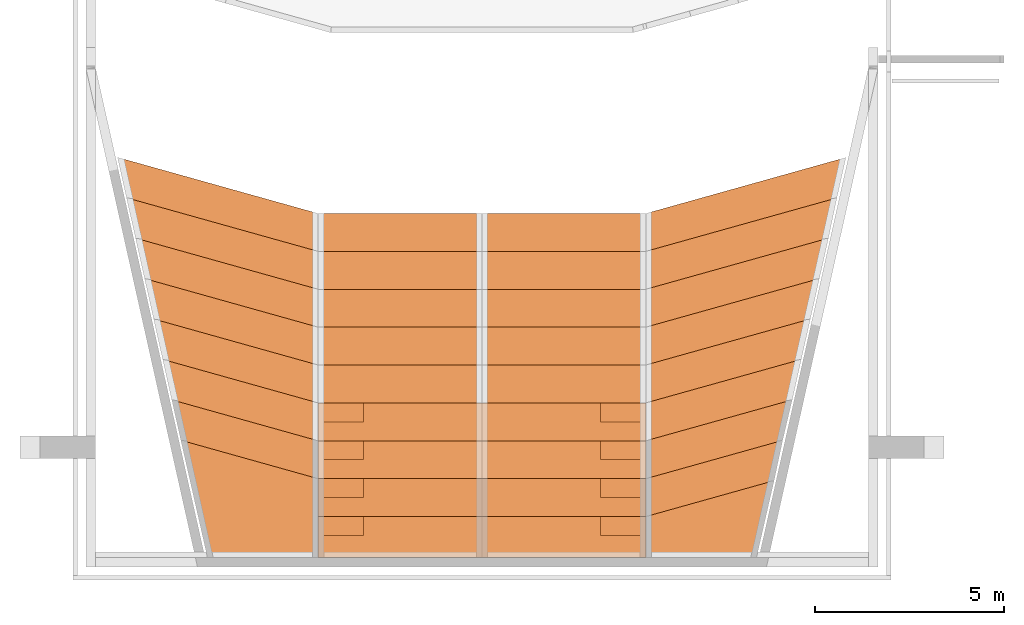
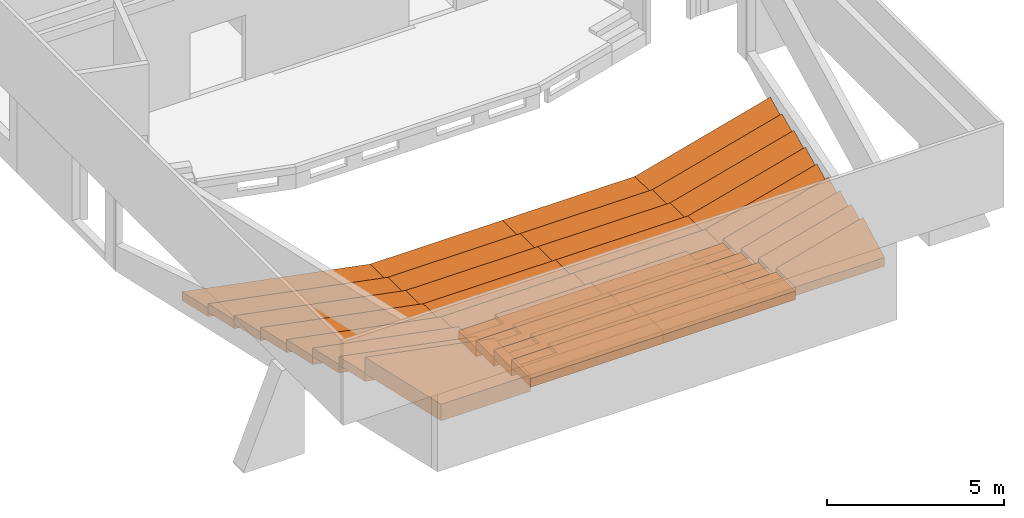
# One storey, part 5 of 5: 47 proxies.
"""IFC4 building model written with IfcOpenShell, lengths in metres."""

from ifc_helpers import new_model, entity, si_unit, converted_unit, derived_unit, frame, origin, place, context, subcontext, project, spatial, faceted_brep, element, save


model = new_model("IFC4")

# Units and contexts
model_context = context("Model", 3, precision=1e-05, world=origin())
plan_context = context("Plan", 2, precision=1e-05, world=origin())
body_context = subcontext(model_context, "Body", "Model", "MODEL_VIEW")
ifc_project = project(units=[si_unit("LENGTHUNIT", "METRE"), si_unit("AREAUNIT", "SQUARE_METRE"), si_unit("VOLUMEUNIT", "CUBIC_METRE"), si_unit("MASSUNIT", "GRAM", prefix="KILO"), converted_unit("PLANEANGLEUNIT", "DEGREE", entity("IfcPlaneAngleMeasure", 0.0174532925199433), si_unit("PLANEANGLEUNIT", "RADIAN"), dimensions=[0, 0, 0, 0, 0, 0, 0]), derived_unit("THERMALTRANSMITTANCEUNIT", [(si_unit("POWERUNIT", "WATT"), 1), (si_unit("THERMODYNAMICTEMPERATUREUNIT", "KELVIN"), -1), (si_unit("LENGTHUNIT", "METRE"), -2)]), derived_unit("VOLUMETRICFLOWRATEUNIT", [(si_unit("LENGTHUNIT", "METRE"), 3), (converted_unit("TIMEUNIT", "hour", entity("IfcTimeMeasure", 3600.0), si_unit("TIMEUNIT", "SECOND"), dimensions=[0, 0, 1, 0, 0, 0, 0]), -1), (si_unit("LENGTHUNIT", "METRE"), -1)])], contexts=[model_context, plan_context])

# Site, building, storey
site_placement = place(None, origin())
site = spatial("IfcSite", under=ifc_project, at=site_placement, Name="Site", CompositionType="ELEMENT")
building_placement = place(site_placement, origin())
building = spatial("IfcBuilding", under=site, at=building_placement, Name="Auditorium", CompositionType="ELEMENT")
storey_placement = place(building_placement, frame((0.0, 0.0, -0.26)))
storey = spatial("IfcBuildingStorey", under=building, at=storey_placement, Name="00-Rez", CompositionType="ELEMENT", Elevation=-0.26)

# Proxies
for number, where in (
    (1, (5.87480299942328, 3.07951718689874, 0.845)),
    (2, (5.87480299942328, 2.07951718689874, 1.115)),
    (3, (5.87480299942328, 1.07951718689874, 1.385)),
):
    element("IfcBuildingElementProxy", number, at=place(storey_placement, frame(where)), inside=storey, context=body_context, shape_type="Brep", body=[
        faceted_brep([(0.0, 1.0, 0.0), (0.0, 1.0, 0.3), (7.27595761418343e-15, 0.0, 0.3), (7.27595761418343e-15, 0.0, 0.0), (8.65, 0.0, 0.3), (8.65, 0.0, 0.0), (8.65, 1.0, 0.3), (8.65, 1.0, 0.0)], [[[0, 1, 2, 3]], [[3, 2, 4, 5]], [[5, 4, 6, 7]], [[7, 6, 1, 0]], [[0, 3, 5, 7]], [[1, 6, 4, 2]]], orient=[[False], [False], [False], [False], [False], [False]]),
    ])
proxy_1_placement = place(storey_placement, frame((5.87480299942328, -0.000550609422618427, 1.655)))
element("IfcBuildingElementProxy", 4, at=proxy_1_placement, inside=storey, context=body_context, shape_type="Brep", body=[
    faceted_brep([(0.0, 1.08006779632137, 0.0), (0.0, 1.08006779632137, 0.3), (7.27595761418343e-15, 5.44786438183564e-15, 0.3), (7.27595761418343e-15, 5.44786438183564e-15, 0.0), (8.65, -9.10382880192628e-18, 0.3), (8.65, -9.10382880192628e-18, 0.0), (8.65, 1.08006779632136, 0.3), (8.65, 1.08006779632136, 0.0)], [[[0, 1, 2, 3]], [[3, 2, 4, 5]], [[5, 4, 6, 7]], [[7, 6, 1, 0]], [[0, 3, 5, 7]], [[1, 6, 4, 2]]], orient=[[False], [False], [False], [False], [False], [False]]),
])
proxy_2_placement = place(storey_placement, frame((10.1998029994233, 7.07951718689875, 0.26)))
element("IfcBuildingElementProxy", 5, at=proxy_2_placement, inside=storey, context=body_context, shape_type="Brep", body=[
    faceted_brep([(0.0, 0.0, -9.0951551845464e-18), (0.0, 0.0, 0.3), (4.32499999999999, 0.0, 0.3), (4.32499999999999, 0.0, -9.0951551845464e-18), (4.32499999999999, 0.999999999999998, 0.3), (4.32499999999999, 0.999999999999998, -9.0951551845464e-18), (0.0, 0.999999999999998, 0.3), (0.0, 0.999999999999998, -9.0951551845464e-18)], [[[0, 1, 2, 3]], [[3, 2, 4, 5]], [[5, 4, 6, 7]], [[7, 6, 1, 0]], [[0, 3, 5, 7]], [[1, 6, 4, 2]]], orient=[[False], [False], [False], [False], [False], [False]]),
])
for number, where in (
    (6, (10.1998029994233, 6.07951718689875, 0.41)),
    (7, (10.1998029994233, 5.07951718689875, 0.56)),
    (8, (10.1998029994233, 4.07951718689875, 0.71)),
    (9, (10.1998029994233, 8.07951718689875, 0.11)),
    (10, (10.1998029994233, 3.07951718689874, 0.845)),
    (11, (10.1998029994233, 2.07951718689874, 1.115)),
    (12, (10.1998029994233, 1.07951718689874, 1.385)),
):
    element("IfcBuildingElementProxy", number, at=place(storey_placement, frame(where)), inside=storey, context=body_context, shape_type="Brep", body=[
        faceted_brep([(0.0, 1.0, 0.0), (0.0, 1.0, 0.3), (7.27595761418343e-15, 0.0, 0.3), (7.27595761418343e-15, 0.0, 0.0), (4.325, 0.0, 0.3), (4.325, 0.0, 0.0), (4.325, 1.0, 0.3), (4.325, 1.0, 0.0)], [[[0, 1, 2, 3]], [[3, 2, 4, 5]], [[5, 4, 6, 7]], [[7, 6, 1, 0]], [[0, 3, 5, 7]], [[1, 6, 4, 2]]], orient=[[False], [False], [False], [False], [False], [False]]),
    ])
proxy_3_placement = place(storey_placement, frame((10.1998029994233, -0.000550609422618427, 1.655)))
element("IfcBuildingElementProxy", 13, at=proxy_3_placement, inside=storey, context=body_context, shape_type="Brep", body=[
    faceted_brep([(0.0, 1.08006779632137, 0.0), (0.0, 1.08006779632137, 0.3), (7.27595761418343e-15, 5.44786438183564e-15, 0.3), (7.27595761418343e-15, 5.44786438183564e-15, 0.0), (4.325, -9.10382880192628e-18, 0.3), (4.325, -9.10382880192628e-18, 0.0), (4.325, 1.08006779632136, 0.3), (4.325, 1.08006779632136, 0.0)], [[[0, 1, 2, 3]], [[3, 2, 4, 5]], [[5, 4, 6, 7]], [[7, 6, 1, 0]], [[0, 3, 5, 7]], [[1, 6, 4, 2]]], orient=[[False], [False], [False], [False], [False], [False]]),
])
proxy_4_placement = place(storey_placement, frame((5.87480299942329, 7.07951718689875, 0.26)))
element("IfcBuildingElementProxy", 14, at=proxy_4_placement, inside=storey, context=body_context, shape_type="Brep", body=[
    faceted_brep([(0.0, 0.0, -9.0951551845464e-18), (0.0, 0.0, 0.3), (4.32499999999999, 0.0, 0.3), (4.32499999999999, 0.0, -9.0951551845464e-18), (4.32499999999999, 0.999999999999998, 0.3), (4.32499999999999, 0.999999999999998, -9.0951551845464e-18), (0.0, 0.999999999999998, 0.3), (0.0, 0.999999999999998, -9.0951551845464e-18)], [[[0, 1, 2, 3]], [[3, 2, 4, 5]], [[5, 4, 6, 7]], [[7, 6, 1, 0]], [[0, 3, 5, 7]], [[1, 6, 4, 2]]], orient=[[False], [False], [False], [False], [False], [False]]),
])
for number, where in (
    (15, (5.87480299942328, 6.07951718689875, 0.41)),
    (16, (5.87480299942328, 5.07951718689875, 0.56)),
    (17, (5.87480299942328, 4.07951718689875, 0.71)),
    (18, (5.87480299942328, 8.07951718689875, 0.11)),
    (19, (5.87480299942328, 3.07951718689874, 0.845)),
    (20, (5.87480299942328, 2.07951718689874, 1.115)),
    (21, (5.87480299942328, 1.07951718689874, 1.385)),
):
    element("IfcBuildingElementProxy", number, at=place(storey_placement, frame(where)), inside=storey, context=body_context, shape_type="Brep", body=[
        faceted_brep([(0.0, 1.0, 0.0), (0.0, 1.0, 0.3), (7.27595761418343e-15, 0.0, 0.3), (7.27595761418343e-15, 0.0, 0.0), (4.325, 0.0, 0.3), (4.325, 0.0, 0.0), (4.325, 1.0, 0.3), (4.325, 1.0, 0.0)], [[[0, 1, 2, 3]], [[3, 2, 4, 5]], [[5, 4, 6, 7]], [[7, 6, 1, 0]], [[0, 3, 5, 7]], [[1, 6, 4, 2]]], orient=[[False], [False], [False], [False], [False], [False]]),
    ])
proxy_5_placement = place(storey_placement, frame((5.87480299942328, -0.000550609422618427, 1.655)))
element("IfcBuildingElementProxy", 22, at=proxy_5_placement, inside=storey, context=body_context, shape_type="Brep", body=[
    faceted_brep([(0.0, 1.08006779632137, 0.0), (0.0, 1.08006779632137, 0.3), (7.27595761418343e-15, 5.44786438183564e-15, 0.3), (7.27595761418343e-15, 5.44786438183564e-15, 0.0), (4.325, -9.10382880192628e-18, 0.3), (4.325, -9.10382880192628e-18, 0.0), (4.325, 1.08006779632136, 0.3), (4.325, 1.08006779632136, 0.0)], [[[0, 1, 2, 3]], [[3, 2, 4, 5]], [[5, 4, 6, 7]], [[7, 6, 1, 0]], [[0, 3, 5, 7]], [[1, 6, 4, 2]]], orient=[[False], [False], [False], [False], [False], [False]]),
])
for number, where in (
    (23, (10.1998029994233, 3.07951718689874, 1.145)),
    (24, (10.1998029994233, 2.07951718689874, 1.415)),
    (25, (10.1998029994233, 1.07951718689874, 1.685)),
):
    element("IfcBuildingElementProxy", number, at=place(storey_placement, frame(where)), inside=storey, context=body_context, shape_type="Brep", body=[
        faceted_brep([(0.0, 1.0, 0.135), (3.125, 1.0, 0.135), (3.125, 0.500000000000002, 0.135), (4.32499999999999, 0.500000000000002, 0.135), (4.32499999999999, 1.81898940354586e-15, 0.135), (0.0, 0.0, 0.135), (4.32499999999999, 1.81898940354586e-15, 0.0), (0.0, 0.0, 0.0), (4.32499999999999, 0.500000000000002, 0.0), (0.0, 1.0, 0.0), (3.125, 1.0, 0.0), (3.125, 0.500000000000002, 0.0)], [[[0, 1, 2, 3, 4, 5]], [[6, 7, 5, 4]], [[8, 6, 4, 3]], [[9, 10, 1, 0]], [[7, 9, 0, 5]], [[9, 7, 6, 8, 11, 10]], [[2, 11, 8, 3]], [[1, 10, 11, 2]]], orient=[[False], [False], [False], [False], [False], [False], [False], [False]]),
    ])
proxy_6_placement = place(storey_placement, frame((10.1998029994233, -0.00055060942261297, 1.955)))
element("IfcBuildingElementProxy", 26, at=proxy_6_placement, inside=storey, context=body_context, shape_type="Brep", body=[
    faceted_brep([(0.0, 1.08006779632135, 0.135), (3.125, 1.08006779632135, 0.135), (3.125, 0.580067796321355, 0.135), (4.32499999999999, 0.580067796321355, 0.135), (4.32499999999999, 1.80988557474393e-15, 0.135), (0.0, -9.10382880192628e-18, 0.135), (4.32499999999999, 1.80988557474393e-15, 0.0), (0.0, -9.10382880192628e-18, 0.0), (4.32499999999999, 0.580067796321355, 0.0), (0.0, 1.08006779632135, 0.0), (3.125, 1.08006779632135, 0.0), (3.125, 0.580067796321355, 0.0)], [[[0, 1, 2, 3, 4, 5]], [[6, 7, 5, 4]], [[8, 6, 4, 3]], [[9, 10, 1, 0]], [[7, 9, 0, 5]], [[9, 7, 6, 8, 11, 10]], [[2, 11, 8, 3]], [[1, 10, 11, 2]]], orient=[[False], [False], [False], [False], [False], [False], [False], [False]]),
])
for number, where in (
    (27, (5.87480299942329, 3.07951718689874, 1.145)),
    (28, (5.87480299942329, 2.07951718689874, 1.415)),
    (29, (5.87480299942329, 1.07951718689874, 1.685)),
):
    element("IfcBuildingElementProxy", number, at=place(storey_placement, frame(where)), inside=storey, context=body_context, shape_type="Brep", body=[
        faceted_brep([(1.2, 0.500000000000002, 0.135), (1.2, 1.0, 0.135), (4.32499999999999, 1.0, 0.135), (4.32499999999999, 1.81898940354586e-15, 0.135), (0.0, 0.0, 0.135), (0.0, 0.5, 0.135), (4.32499999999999, 1.81898940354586e-15, 0.0), (0.0, 0.0, 0.0), (4.32499999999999, 1.0, 0.0), (1.2, 1.0, 0.0), (0.0, 0.5, 0.0), (1.2, 0.500000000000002, 0.0)], [[[0, 1, 2, 3, 4, 5]], [[6, 7, 4, 3]], [[8, 6, 3, 2]], [[9, 8, 2, 1]], [[7, 10, 5, 4]], [[10, 7, 6, 8, 9, 11]], [[0, 11, 9, 1]], [[5, 10, 11, 0]]], orient=[[False], [False], [False], [False], [False], [False], [False], [False]]),
    ])
proxy_7_placement = place(storey_placement, frame((5.87480299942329, -0.00055060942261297, 1.955)))
element("IfcBuildingElementProxy", 30, at=proxy_7_placement, inside=storey, context=body_context, shape_type="Brep", body=[
    faceted_brep([(1.2, 0.580067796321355, 0.135), (1.2, 1.08006779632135, 0.135), (4.32499999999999, 1.08006779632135, 0.135), (4.32499999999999, 1.80988557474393e-15, 0.135), (0.0, -9.10382880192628e-18, 0.135), (0.0, 0.580067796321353, 0.135), (4.32499999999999, 1.80988557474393e-15, 0.0), (0.0, -9.10382880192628e-18, 0.0), (4.32499999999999, 1.08006779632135, 0.0), (1.2, 1.08006779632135, 0.0), (0.0, 0.580067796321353, 0.0), (1.2, 0.580067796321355, 0.0)], [[[0, 1, 2, 3, 4, 5]], [[6, 7, 4, 3]], [[8, 6, 3, 2]], [[9, 8, 2, 1]], [[7, 10, 5, 4]], [[10, 7, 6, 8, 9, 11]], [[0, 11, 9, 1]], [[5, 10, 11, 0]]], orient=[[False], [False], [False], [False], [False], [False], [False], [False]]),
])
proxy_8_placement = place(storey_placement, frame((0.576789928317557, 8.07951718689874, 0.11)))
element("IfcBuildingElementProxy", 31, at=proxy_8_placement, inside=storey, context=body_context, shape_type="Brep", body=[
    faceted_brep([(2.27373675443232e-16, 2.483113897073, 0.0), (2.27373675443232e-16, 2.483113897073, 0.3), (0.238849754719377, 1.41625268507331, 0.3), (0.238849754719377, 1.41625268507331, 0.0), (5.29801307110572, 0.0, 0.3), (5.29801307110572, 0.0, 0.0), (5.29801307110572, 1.0, 0.3), (5.29801307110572, 1.0, 0.0)], [[[0, 1, 2, 3]], [[3, 2, 4, 5]], [[5, 4, 6, 7]], [[7, 6, 1, 0]], [[0, 3, 5, 7]], [[1, 6, 4, 2]]], orient=[[False], [False], [False], [False], [False], [False]]),
])
proxy_9_placement = place(storey_placement, frame((0.815639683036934, 7.07951718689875, 0.26)))
element("IfcBuildingElementProxy", 32, at=proxy_9_placement, inside=storey, context=body_context, shape_type="Brep", body=[
    faceted_brep([(0.238849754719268, 1.34939147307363, -9.0951551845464e-18), (0.238849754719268, 1.34939147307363, 0.3), (5.05916331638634, 0.0, 0.3), (5.05916331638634, 0.0, -9.0951551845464e-18), (5.05916331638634, 0.999999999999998, 0.3), (5.05916331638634, 0.999999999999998, -9.0951551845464e-18), (2.27373675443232e-16, 2.41625268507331, 0.3), (2.27373675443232e-16, 2.41625268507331, -9.0951551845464e-18)], [[[0, 1, 2, 3]], [[3, 2, 4, 5]], [[5, 4, 6, 7]], [[7, 6, 1, 0]], [[0, 3, 5, 7]], [[1, 6, 4, 2]]], orient=[[False], [False], [False], [False], [False], [False]]),
])
proxy_10_placement = place(storey_placement, frame((1.05448943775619, 6.07951718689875, 0.41)))
element("IfcBuildingElementProxy", 33, at=proxy_10_placement, inside=storey, context=body_context, shape_type="Brep", body=[
    faceted_brep([(2.27373675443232e-16, 2.34939147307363, 0.0), (2.27373675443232e-16, 2.34939147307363, 0.3), (0.238849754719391, 1.28253026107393, 0.3), (0.238849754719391, 1.28253026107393, 0.0), (4.82031356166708, 0.0, 0.3), (4.82031356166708, 0.0, 0.0), (4.82031356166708, 1.0, 0.3), (4.82031356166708, 1.0, 0.0)], [[[0, 1, 2, 3]], [[3, 2, 4, 5]], [[5, 4, 6, 7]], [[7, 6, 1, 0]], [[0, 3, 5, 7]], [[1, 6, 4, 2]]], orient=[[False], [False], [False], [False], [False], [False]]),
])
proxy_11_placement = place(storey_placement, frame((1.29333919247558, 5.07951718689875, 0.56)))
element("IfcBuildingElementProxy", 34, at=proxy_11_placement, inside=storey, context=body_context, shape_type="Brep", body=[
    faceted_brep([(2.27373675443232e-16, 2.28253026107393, 0.0), (2.27373675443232e-16, 2.28253026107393, 0.3), (0.238849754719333, 1.21566904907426, 0.3), (0.238849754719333, 1.21566904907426, 0.0), (4.5814638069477, 0.0, 0.3), (4.5814638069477, 0.0, 0.0), (4.5814638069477, 1.0, 0.3), (4.5814638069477, 1.0, 0.0)], [[[0, 1, 2, 3]], [[3, 2, 4, 5]], [[5, 4, 6, 7]], [[7, 6, 1, 0]], [[0, 3, 5, 7]], [[1, 6, 4, 2]]], orient=[[False], [False], [False], [False], [False], [False]]),
])
proxy_12_placement = place(storey_placement, frame((1.5321889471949, 4.07951718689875, 0.71)))
element("IfcBuildingElementProxy", 35, at=proxy_12_placement, inside=storey, context=body_context, shape_type="Brep", body=[
    faceted_brep([(2.27373675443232e-16, 2.21566904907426, 0.0), (2.27373675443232e-16, 2.21566904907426, 0.3), (0.238849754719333, 1.14880783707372, 0.3), (0.238849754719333, 1.14880783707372, 0.0), (4.34261405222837, 0.0, 0.3), (4.34261405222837, 0.0, 0.0), (4.34261405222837, 1.0, 0.3), (4.34261405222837, 1.0, 0.0)], [[[0, 1, 2, 3]], [[3, 2, 4, 5]], [[5, 4, 6, 7]], [[7, 6, 1, 0]], [[0, 3, 5, 7]], [[1, 6, 4, 2]]], orient=[[False], [False], [False], [False], [False], [False]]),
])
proxy_13_placement = place(storey_placement, frame((1.77103870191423, 3.07951718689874, 0.98)))
element("IfcBuildingElementProxy", 36, at=proxy_13_placement, inside=storey, context=body_context, shape_type="Brep", body=[
    faceted_brep([(2.27373675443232e-16, 2.14880783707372, 0.0), (2.27373675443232e-16, 2.14880783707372, 0.3), (0.238849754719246, 1.081946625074, 0.3), (0.238849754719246, 1.081946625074, 0.0), (4.10376429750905, 0.0, 0.3), (4.10376429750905, 0.0, 0.0), (4.10376429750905, 1.0, 0.3), (4.10376429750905, 1.0, 0.0)], [[[0, 1, 2, 3]], [[3, 2, 4, 5]], [[5, 4, 6, 7]], [[7, 6, 1, 0]], [[0, 3, 5, 7]], [[1, 6, 4, 2]]], orient=[[False], [False], [False], [False], [False], [False]]),
])
proxy_14_placement = place(storey_placement, frame((2.24874315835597, -0.000550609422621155, 1.52)))
element("IfcBuildingElementProxy", 37, at=proxy_14_placement, inside=storey, context=body_context, shape_type="Brep", body=[
    faceted_brep([(0.0, 3.09513125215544, 0.0), (0.0, 3.09513125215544, 0.570000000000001), (0.702793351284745, -9.10382880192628e-18, 0.570000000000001), (0.702793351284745, -9.10382880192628e-18, 0.0), (3.6260598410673, 8.17634848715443e-15, 0.570000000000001), (3.6260598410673, 8.17634848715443e-15, 0.0), (3.6260598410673, 2.08006779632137, 0.570000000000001), (3.6260598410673, 2.08006779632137, 0.0)], [[[0, 1, 2, 3]], [[3, 2, 4, 5]], [[5, 4, 6, 7]], [[7, 6, 1, 0]], [[0, 3, 5, 7]], [[1, 6, 4, 2]]], orient=[[False], [False], [False], [False], [False], [False]]),
])
proxy_15_placement = place(storey_placement, frame((2.00988845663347, 2.07951718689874, 1.25)))
element("IfcBuildingElementProxy", 38, at=proxy_15_placement, inside=storey, context=body_context, shape_type="Brep", body=[
    faceted_brep([(0.0, 2.081946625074, 0.0), (0.0, 2.081946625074, 0.3), (0.238854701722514, 1.01506345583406, 0.3), (0.238854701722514, 1.01506345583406, 0.0), (3.86491454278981, 0.0, 0.3), (3.86491454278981, 0.0, 0.0), (3.86491454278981, 1.0, 0.3), (3.86491454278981, 1.0, 0.0)], [[[0, 1, 2, 3]], [[3, 2, 4, 5]], [[5, 4, 6, 7]], [[7, 6, 1, 0]], [[0, 3, 5, 7]], [[1, 6, 4, 2]]], orient=[[False], [False], [False], [False], [False], [False]]),
])
proxy_16_placement = place(storey_placement, frame((14.5248029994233, 8.07951718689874, 0.11)))
element("IfcBuildingElementProxy", 39, at=proxy_16_placement, inside=storey, context=body_context, shape_type="Brep", body=[
    faceted_brep([(0.0, 1.0, 0.0), (0.0, 1.0, 0.3), (7.27595761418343e-15, 9.09494701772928e-16, 0.3), (7.27595761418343e-15, 9.09494701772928e-16, 0.0), (5.04339263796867, 1.41176048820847, 0.3), (5.04339263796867, 1.41176048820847, 0.0), (5.28165351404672, 2.47845707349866, 0.3), (5.28165351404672, 2.47845707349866, 0.0)], [[[0, 1, 2, 3]], [[3, 2, 4, 5]], [[5, 4, 6, 7]], [[7, 6, 1, 0]], [[0, 3, 5, 7]], [[1, 6, 4, 2]]], orient=[[False], [False], [False], [False], [False], [False]]),
])
proxy_17_placement = place(storey_placement, frame((14.5248029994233, 7.07951718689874, 0.26)))
element("IfcBuildingElementProxy", 40, at=proxy_17_placement, inside=storey, context=body_context, shape_type="Brep", body=[
    faceted_brep([(0.0, 0.0, -9.0951551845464e-18), (0.0, 0.0, 0.3), (4.82060447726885, 1.34939519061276, 0.3), (4.82060447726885, 1.34939519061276, -9.0951551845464e-18), (5.04339263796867, 2.41176048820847, 0.3), (5.04339263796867, 2.41176048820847, -9.0951551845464e-18), (0.0, 0.999999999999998, 0.3), (0.0, 0.999999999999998, -9.0951551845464e-18)], [[[0, 1, 2, 3]], [[3, 2, 4, 5]], [[5, 4, 6, 7]], [[7, 6, 1, 0]], [[0, 3, 5, 7]], [[1, 6, 4, 2]]], orient=[[False], [False], [False], [False], [False], [False]]),
])
proxy_18_placement = place(storey_placement, frame((14.5248029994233, 6.07951718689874, 0.41)))
element("IfcBuildingElementProxy", 41, at=proxy_18_placement, inside=storey, context=body_context, shape_type="Brep", body=[
    faceted_brep([(0.0, 1.0, 0.0), (0.0, 1.0, 0.3), (7.27595761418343e-15, 0.0, 0.3), (7.27595761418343e-15, 0.0, 0.0), (4.58175515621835, 1.28253388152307, 0.3), (4.58175515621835, 1.28253388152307, 0.0), (4.82060447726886, 2.34939519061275, 0.3), (4.82060447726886, 2.34939519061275, 0.0)], [[[0, 1, 2, 3]], [[3, 2, 4, 5]], [[5, 4, 6, 7]], [[7, 6, 1, 0]], [[0, 3, 5, 7]], [[1, 6, 4, 2]]], orient=[[False], [False], [False], [False], [False], [False]]),
])
proxy_19_placement = place(storey_placement, frame((14.5248029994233, 5.07951718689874, 0.56)))
element("IfcBuildingElementProxy", 42, at=proxy_19_placement, inside=storey, context=body_context, shape_type="Brep", body=[
    faceted_brep([(0.0, 1.0, 0.0), (0.0, 1.0, 0.3), (7.27595761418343e-15, 0.0, 0.3), (7.27595761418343e-15, 0.0, 0.0), (4.34290583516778, 1.21567257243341, 0.3), (4.34290583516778, 1.21567257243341, 0.0), (4.58175515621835, 2.28253388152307, 0.3), (4.58175515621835, 2.28253388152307, 0.0)], [[[0, 1, 2, 3]], [[3, 2, 4, 5]], [[5, 4, 6, 7]], [[7, 6, 1, 0]], [[0, 3, 5, 7]], [[1, 6, 4, 2]]], orient=[[False], [False], [False], [False], [False], [False]]),
])
proxy_20_placement = place(storey_placement, frame((14.5248029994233, 4.07951718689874, 0.71)))
element("IfcBuildingElementProxy", 43, at=proxy_20_placement, inside=storey, context=body_context, shape_type="Brep", body=[
    faceted_brep([(0.0, 1.0, 0.0), (0.0, 1.0, 0.3), (7.27595761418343e-15, 0.0, 0.3), (7.27595761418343e-15, 0.0, 0.0), (4.10405651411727, 1.14881126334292, 0.3), (4.10405651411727, 1.14881126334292, 0.0), (4.34290583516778, 2.21567257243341, 0.3), (4.34290583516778, 2.21567257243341, 0.0)], [[[0, 1, 2, 3]], [[3, 2, 4, 5]], [[5, 4, 6, 7]], [[7, 6, 1, 0]], [[0, 3, 5, 7]], [[1, 6, 4, 2]]], orient=[[False], [False], [False], [False], [False], [False]]),
])
proxy_21_placement = place(storey_placement, frame((14.5248029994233, 3.07951718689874, 0.98)))
element("IfcBuildingElementProxy", 44, at=proxy_21_placement, inside=storey, context=body_context, shape_type="Brep", body=[
    faceted_brep([(0.0, 1.0, 0.0), (0.0, 1.0, 0.3), (7.27595761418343e-15, 0.0, 0.3), (7.27595761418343e-15, 0.0, 0.0), (3.86520719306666, 1.0819499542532, 0.3), (3.86520719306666, 1.0819499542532, 0.0), (4.10405651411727, 2.14881126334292, 0.3), (4.10405651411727, 2.14881126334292, 0.0)], [[[0, 1, 2, 3]], [[3, 2, 4, 5]], [[5, 4, 6, 7]], [[7, 6, 1, 0]], [[0, 3, 5, 7]], [[1, 6, 4, 2]]], orient=[[False], [False], [False], [False], [False], [False]]),
])
proxy_22_placement = place(storey_placement, frame((14.5248029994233, 2.07951718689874, 1.25)))
element("IfcBuildingElementProxy", 45, at=proxy_22_placement, inside=storey, context=body_context, shape_type="Brep", body=[
    faceted_brep([(0.0, 1.0, 0.0), (0.0, 1.0, 0.3), (7.27595761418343e-15, 0.0, 0.3), (7.27595761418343e-15, 0.0, 0.0), (3.61382738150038, 1.01158097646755, 0.3), (3.61382738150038, 1.01158097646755, 0.0), (3.86520719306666, 2.0819499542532, 0.3), (3.86520719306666, 2.0819499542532, 0.0)], [[[0, 1, 2, 3]], [[3, 2, 4, 5]], [[5, 4, 6, 7]], [[7, 6, 1, 0]], [[0, 3, 5, 7]], [[1, 6, 4, 2]]], orient=[[False], [False], [False], [False], [False], [False]]),
])
proxy_23_placement = place(storey_placement, frame((14.5248029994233, -0.000550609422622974, 1.79)))
element("IfcBuildingElementProxy", 46, at=proxy_23_placement, inside=storey, context=body_context, shape_type="Brep", body=[
    faceted_brep([(0.0, 1.08006779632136, 0.0), (0.0, 1.08006779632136, 0.3), (0.0, 4.53836968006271e-15, 0.3), (0.0, 4.53836968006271e-15, 0.0), (2.92326648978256, -9.10382880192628e-18, 0.3), (2.92326648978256, -9.10382880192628e-18, 0.0), (3.38750855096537, 2.02829513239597, 0.3), (3.38750855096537, 2.02829513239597, 0.0)], [[[0, 1, 2, 3]], [[3, 2, 4, 5]], [[5, 4, 6, 7]], [[7, 6, 1, 0]], [[0, 3, 5, 7]], [[1, 6, 4, 2]]], orient=[[False], [False], [False], [False], [False], [False]]),
])
proxy_24_placement = place(storey_placement, frame((14.5248029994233, 1.07951718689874, 1.52)))
element("IfcBuildingElementProxy", 47, at=proxy_24_placement, inside=storey, context=body_context, shape_type="Brep", body=[
    faceted_brep([(0.0, 1.0, 0.0), (0.0, 1.0, 0.3), (7.27595761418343e-15, 0.0, 0.3), (7.27595761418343e-15, 0.0, 0.0), (3.38750855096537, 0.948227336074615, 0.3), (3.38750855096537, 0.948227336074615, 0.0), (3.61382738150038, 2.01158097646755, 0.3), (3.61382738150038, 2.01158097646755, 0.0)], [[[0, 1, 2, 3]], [[3, 2, 4, 5]], [[5, 4, 6, 7]], [[7, 6, 1, 0]], [[0, 3, 5, 7]], [[1, 6, 4, 2]]], orient=[[False], [False], [False], [False], [False], [False]]),
])

save(model, "model.ifc")
